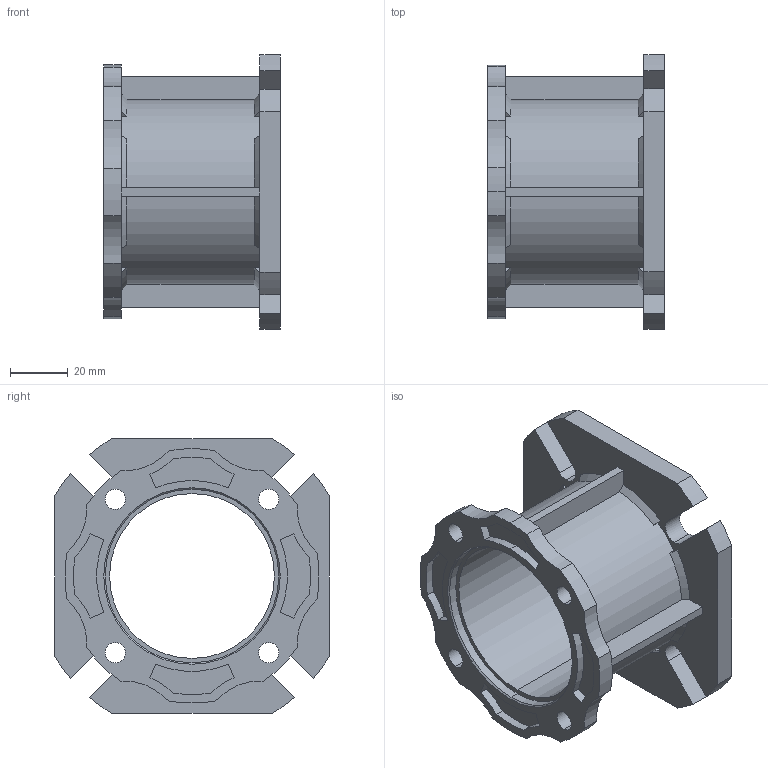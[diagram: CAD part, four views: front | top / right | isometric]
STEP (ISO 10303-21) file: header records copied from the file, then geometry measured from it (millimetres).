
FILE_DESCRIPTION (( 'STEP AP203' ), '1' );
FILE_NAME ('FCN 040-FB.STEP', '2017-01-19T04:38:53', ( 'jsk-23' ), ( 'hx' ), 'SwSTEP 2.0', 'SolidWorks 2012', '' );
FILE_SCHEMA (( 'CONFIG_CONTROL_DESIGN' ));
Length unit declared in the file: millimetre
Products named in the file (1): FCN 040-FB
Bounding box: 61 x 95 x 95 mm (x, y, z)
Volume: 78927.6 mm3; surface area: 47586 mm2
Topology: 1 solids, 1 shells, 346 faces, 944 edges, 628 vertices
Faces by surface type: cylinder 188, plane 138, cone 20
Entity records: 11269 total; most frequent: DIRECTION 2034, CARTESIAN_POINT 2015, ORIENTED_EDGE 1888, EDGE_CURVE 944, AXIS2_PLACEMENT_3D 759, VERTEX_POINT 628, VECTOR 516, LINE 516
